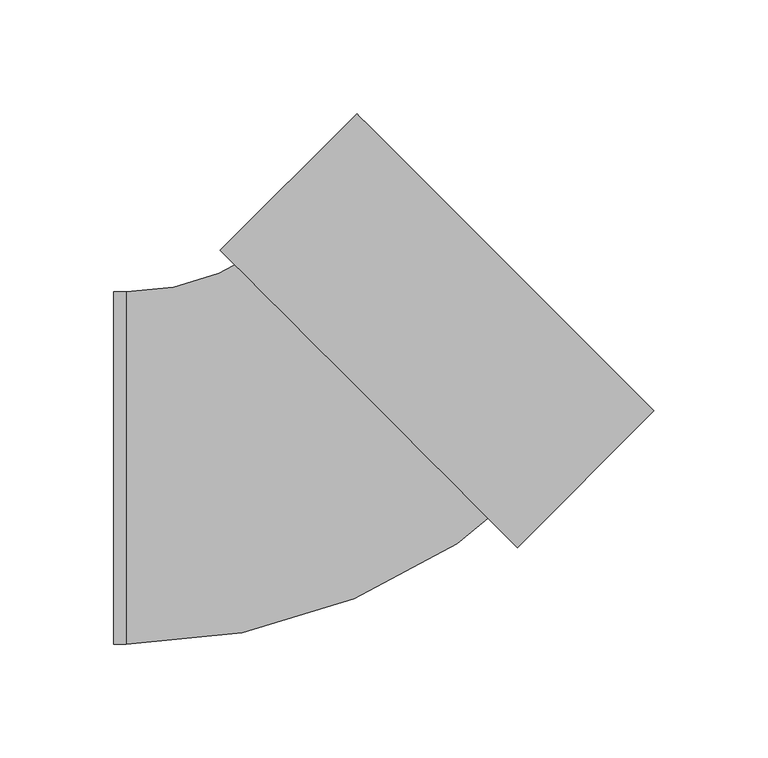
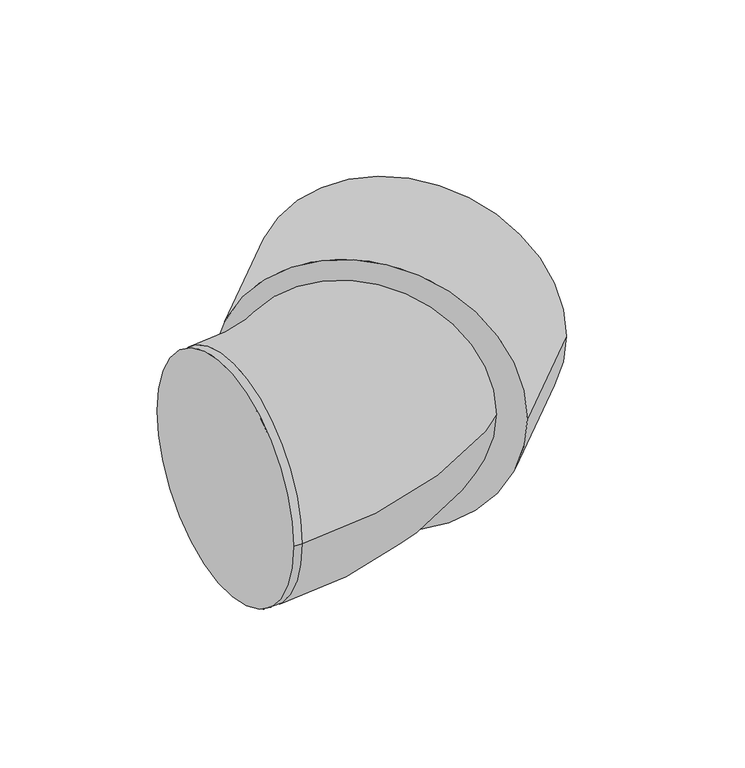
"""IFC4 building model written with IfcOpenShell, lengths in millimetres: duct fitting geometry, NLRS_57_DUF_UN_bend EPP_M&G : ø125 - ø180."""

from ifc_helpers import new_model, si_unit, point, frame, origin, place, context, project, spatial, polyline, circle_curve, ellipse_curve, trimmed, source, transform, mapped, element, save
from ifc_brep_helpers import plane_surface, cylinder_surface, revolved_surface, advanced_brep


def duct_fitting_e02605c4(model_context):
    return source(origin(), model_context, "Body", "AdvancedBrep", [
        advanced_brep(
        [(-82.0, -77.5, 0.0), (-82.0, 77.5, 0.0), (-76.5, -77.5, 0.0), (-76.5, 77.5, 0.0), (-0.7071068, 108.8944443, 0.0), (108.8944443, -0.7071068, 0.0), (117.0261723, 7.4246212, 0.0), (7.4246212, 117.0261723, 0.0)],
        [
            (0, 1, circle_curve(frame((-82.0, 0.0, 0.0), z_axis=(-1.0, 0.0, 0.0), x_axis=(0.0, 1.0, 0.0)), 77.5)),
            (1, 0, circle_curve(frame((-82.0, 0.0, 0.0), z_axis=(-1.0, 0.0, 0.0), x_axis=(0.0, 1.0, 0.0)), 77.5)),
            (0, 2),
            (2, 3, circle_curve(frame((-76.5, 0.0, 0.0), z_axis=(-1.0, 0.0, 0.0), x_axis=(0.0, 1.0, 0.0)), 77.5)),
            (3, 1),
            (3, 2, circle_curve(frame((-76.5, 0.0, 0.0), z_axis=(-1.0, 0.0, 0.0), x_axis=(0.0, 1.0, 0.0)), 77.5)),
            (4, 3, circle_curve(frame((-76.5, 184.6873375, 0.0), z_axis=(0.0, 0.0, -1.0), x_axis=(0.0, -1.0, 0.0)), 107.1873375)),
            (2, 5, circle_curve(frame((-76.5, 184.6873375, 0.0), z_axis=(0.0, 0.0, 1.0), x_axis=(0.0, -1.0, 0.0)), 262.1873375)),
            (5, 4, circle_curve(frame((54.0936688, 54.0936688, 0.0), z_axis=(-0.7071067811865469, -0.7071067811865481, 0.0), x_axis=(-0.7071067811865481, 0.7071067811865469, 0.0)), 77.5)),
            (4, 5, circle_curve(frame((54.0936688, 54.0936688, 0.0), z_axis=(-0.7071067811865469, -0.7071067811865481, 0.0), x_axis=(-0.7071067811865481, 0.7071067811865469, 0.0)), 77.5)),
            (6, 7, circle_curve(frame((62.2253967, 62.2253967, 0.0), z_axis=(0.7071067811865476, 0.7071067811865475, 0.0), x_axis=(-0.7071067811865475, 0.7071067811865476, 0.0)), 77.5)),
            (7, 6, circle_curve(frame((62.2253967, 62.2253967, 0.0), z_axis=(0.7071067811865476, 0.7071067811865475, 0.0), x_axis=(-0.7071067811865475, 0.7071067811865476, 0.0)), 77.5)),
            (5, 6),
            (7, 4),
        ],
        [
            plane_surface(frame((-82.0, 0.0, 0.0), z_axis=(-1.0, 0.0, 0.0), x_axis=(0.0, 0.0, 1.0))),
            cylinder_surface(frame((-82.0, 0.0, 0.0), z_axis=(-1.0, 0.0, 0.0), x_axis=(0.0, 1.0, 0.0)), 77.5),
            revolved_surface(trimmed(ellipse_curve(frame((-76.5, 0.0, 0.0), z_axis=(-1.0, 0.0, 0.0), x_axis=(0.0, 1.0, 0.0)), 77.5, 77.5), [point((-76.5, -77.5, 0.0))], [point((-76.5, 77.5, 0.0))], True, "CARTESIAN"), (-76.5, 184.6873375, 0.0), (0.0, 0.0, 1.0)),
            revolved_surface(trimmed(ellipse_curve(frame((-76.5, 0.0, 0.0), z_axis=(-1.0, 0.0, 0.0), x_axis=(0.0, 1.0, 0.0)), 77.5, 77.5), [point((-76.5, 77.5, 0.0))], [point((-76.5, -77.5, 0.0))], True, "CARTESIAN"), (-76.5, 184.6873375, 0.0), (0.0, 0.0, 1.0)),
            plane_surface(frame((62.2253967, 62.2253967, 0.0), z_axis=(0.7071067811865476, 0.7071067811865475, 0.0), x_axis=(0.0, 0.0, 1.0))),
            cylinder_surface(frame((54.0936688, 54.0936688, 0.0), z_axis=(-0.7071067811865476, -0.7071067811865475, 0.0), x_axis=(-0.7071067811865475, 0.7071067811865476, 0.0)), 77.5),
        ],
        [
            (0, [[1, 2]]),
            (1, [[-1, 3, 4, 5]]),
            (1, [[-2, -5, 6, -3]]),
            (2, [[7, -4, 8, 9]]),
            (3, [[-8, -6, -7, 10]]),
            (4, [[11, 12]]),
            (5, [[-9, 13, -12, 14]]),
            (5, [[-10, -14, -11, -13]]),
        ],
    ),
        advanced_brep(
        [(95.8129689, -35.0017857, 0.0), (-35.0017857, 95.8129689, 0.0), (155.9170453, 25.1022907, 0.0), (25.1022907, 155.9170453, 0.0), (145.3104435, 35.7088924, 0.0), (35.7088924, 145.3104435, 0.0), (117.0261723, 7.4246212, 0.0), (7.4246212, 117.0261723, 0.0)],
        [
            (0, 1, circle_curve(frame((30.4055916, 30.4055916, 0.0), z_axis=(-0.7071067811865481, -0.7071067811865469, 0.0), x_axis=(-0.7071067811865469, 0.7071067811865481, 0.0)), 92.5)),
            (1, 0, circle_curve(frame((30.4055916, 30.4055916, 0.0), z_axis=(-0.7071067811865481, -0.7071067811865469, 0.0), x_axis=(-0.7071067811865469, 0.7071067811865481, 0.0)), 92.5)),
            (2, 3, circle_curve(frame((90.509668, 90.509668, 0.0), z_axis=(0.7071067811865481, 0.7071067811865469, 0.0), x_axis=(-0.7071067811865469, 0.7071067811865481, 0.0)), 92.5)),
            (3, 2, circle_curve(frame((90.509668, 90.509668, 0.0), z_axis=(0.7071067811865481, 0.7071067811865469, 0.0), x_axis=(-0.7071067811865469, 0.7071067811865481, 0.0)), 92.5)),
            (4, 5, circle_curve(frame((90.509668, 90.509668, 0.0), z_axis=(-0.7071067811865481, -0.707106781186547, 0.0), x_axis=(-0.707106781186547, 0.7071067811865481, 0.0)), 77.5)),
            (5, 4, circle_curve(frame((90.509668, 90.509668, 0.0), z_axis=(-0.7071067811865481, -0.707106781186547, 0.0), x_axis=(-0.707106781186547, 0.7071067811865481, 0.0)), 77.5)),
            (0, 2),
            (3, 1),
            (6, 7, circle_curve(frame((62.2253967, 62.2253967, 0.0), z_axis=(0.7071067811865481, 0.707106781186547, 0.0), x_axis=(-0.707106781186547, 0.7071067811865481, 0.0)), 77.5)),
            (7, 6, circle_curve(frame((62.2253967, 62.2253967, 0.0), z_axis=(0.7071067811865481, 0.707106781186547, 0.0), x_axis=(-0.707106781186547, 0.7071067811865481, 0.0)), 77.5)),
            (7, 5),
            (4, 6),
        ],
        [
            plane_surface(frame((30.4055916, 30.4055916, 0.0), z_axis=(-0.7071067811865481, -0.7071067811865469, 0.0), x_axis=(0.0, 0.0, 1.0))),
            plane_surface(frame((90.509668, 90.509668, 0.0), z_axis=(0.7071067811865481, 0.7071067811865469, 0.0), x_axis=(0.0, 0.0, 1.0))),
            cylinder_surface(frame((30.4055916, 30.4055916, 0.0), z_axis=(-0.7071067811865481, -0.7071067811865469, 0.0), x_axis=(-0.7071067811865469, 0.7071067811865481, 0.0)), 92.5),
            plane_surface(frame((62.2253967, 62.2253967, 0.0), z_axis=(0.7071067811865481, 0.707106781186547, 0.0), x_axis=(0.0, 0.0, 1.0))),
            revolved_surface(polyline([(7.424621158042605, 117.02617224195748, 0.0), (35.70889245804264, 145.31044354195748, 0.0)]), (62.2253967, 62.2253967, 0.0), (-0.7071067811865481, -0.707106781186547, 0.0)),
        ],
        [
            (0, [[1, 2]]),
            (1, [[3, 4], [5, 6]]),
            (2, [[-1, 7, -4, 8]]),
            (2, [[-2, -8, -3, -7]]),
            (3, [[9, 10]]),
            (4, [[-10, 11, -5, 12]]),
            (4, [[-9, -12, -6, -11]]),
        ],
    ),
    ])


if __name__ == "__main__":
    model = new_model("IFC4")
    model_context = context("Model", 3, world=origin())
    ifc_project = project(units=[si_unit("LENGTHUNIT", "METRE", prefix="MILLI")], contexts=[model_context])
    site = spatial("IfcSite", under=ifc_project)
    building = spatial("IfcBuilding", under=site)
    placement = place(None, origin())
    duct_fitting_shape = duct_fitting_e02605c4(model_context)
    element("IfcDuctFitting", 1, ObjectType="NLRS_57_DUF_UN_bend EPP_M&G : ø125 - ø180", at=placement, inside=building, context=model_context, shape_type="MappedRepresentation", body=[
        mapped(duct_fitting_shape, transform((0.0, 0.0, 0.0), x_axis=(1.0, 0.0, 0.0), y_axis=(0.0, 1.0, 0.0), z_axis=(0.0, 0.0, 1.0))),
    ])
    save(model, "model.ifc")
